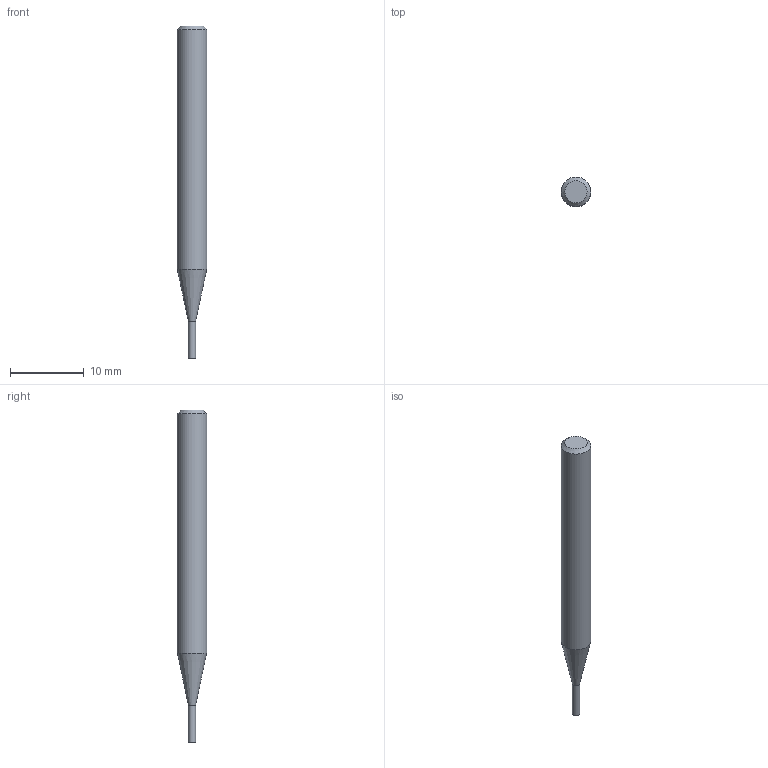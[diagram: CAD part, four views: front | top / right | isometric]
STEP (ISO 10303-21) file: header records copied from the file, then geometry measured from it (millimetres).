
FILE_DESCRIPTION((''),'2;1');
FILE_NAME('C:\Users\nsx150\AppData\Local\Temp\Mastercam 2021\E36A1X9CCL\TEMP.step','2023-04-21T15:28:05',(''),(''),'STEP Write','Mastercam 2021 ... CNC Software, Inc.','');
FILE_SCHEMA(('AUTOMOTIVE_DESIGN'));
Length unit declared in the file: millimetre
Products named in the file (1): None
Bounding box: 4 x 4 x 45 mm (x, y, z)
Volume: 455.3 mm3; surface area: 497.3 mm2
Topology: 2 solids, 2 shells, 8 faces, 10 edges, 6 vertices
Faces by surface type: plane 4, cylinder 2, cone 2
Full cylindrical faces by diameter (mm): 1 x1, 4 x1
Entity records: 190 total; most frequent: DIRECTION 32, CARTESIAN_POINT 22, AXIS2_PLACEMENT_3D 16, ORIENTED_EDGE 12, EDGE_LOOP 12, STYLED_ITEM 11, ADVANCED_FACE 8, VERTEX_POINT 6
